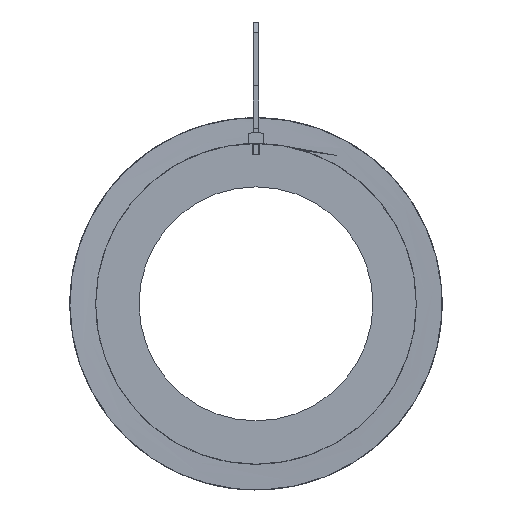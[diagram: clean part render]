
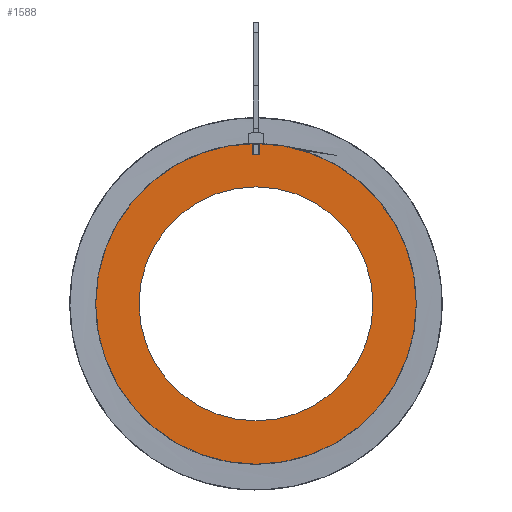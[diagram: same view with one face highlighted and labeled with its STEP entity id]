
A CAD part, front view. The second image highlights one B-rep face of the part: STEP entity #1588.
In plain terms, the highlighted planar face has unit normal (0, -1, 0).
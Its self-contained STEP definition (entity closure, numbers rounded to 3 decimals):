
#31=FACE_BOUND($,#307,.T.);
#32=FACE_BOUND($,#308,.T.);
#44=CIRCLE($,#1606,30.);
#49=CIRCLE($,#1613,30.15);
#70=CIRCLE($,#1700,22.);
#144=PLANE($,#1699);
#215=FACE_OUTER_BOUND($,#306,.T.);
#306=EDGE_LOOP($,(#1422));
#307=EDGE_LOOP($,(#1423,#1424,#1425,#1426));
#308=EDGE_LOOP($,(#1427));
#477=LINE($,#8890,#648);
#480=LINE($,#8896,#651);
#484=LINE($,#8902,#655);
#648=VECTOR($,#2075,1.991);
#651=VECTOR($,#2080,1.5);
#655=VECTOR($,#2086,1.991);
#686=VERTEX_POINT($,#8543);
#687=VERTEX_POINT($,#8545);
#692=VERTEX_POINT($,#8559);
#795=VERTEX_POINT($,#8889);
#797=VERTEX_POINT($,#8895);
#799=VERTEX_POINT($,#8904);
#831=EDGE_CURVE($,#687,#686,#44,.T.);
#838=EDGE_CURVE($,#692,#692,#49,.T.);
#1002=EDGE_CURVE($,#795,#687,#477,.T.);
#1005=EDGE_CURVE($,#797,#795,#480,.T.);
#1009=EDGE_CURVE($,#686,#797,#484,.T.);
#1010=EDGE_CURVE($,#799,#799,#70,.T.);
#1422=ORIENTED_EDGE($,*,*,#838,.T.);
#1423=ORIENTED_EDGE($,*,*,#1009,.T.);
#1424=ORIENTED_EDGE($,*,*,#1005,.T.);
#1425=ORIENTED_EDGE($,*,*,#1002,.T.);
#1426=ORIENTED_EDGE($,*,*,#831,.T.);
#1427=ORIENTED_EDGE($,*,*,#1010,.T.);
#1588=ADVANCED_FACE($,(#215,#31,#32),#144,.F.);
#1606=AXIS2_PLACEMENT_3D($,#8546,#1748,#1749);
#1613=AXIS2_PLACEMENT_3D($,#8560,#1764,#1765);
#1699=AXIS2_PLACEMENT_3D($,#8903,#2087,#2088);
#1700=AXIS2_PLACEMENT_3D($,#8905,#2089,#2090);
#1748=DIRECTION('center_axis',(0.,1.,0.));
#1749=DIRECTION('ref_axis',(1.,0.,0.));
#1764=DIRECTION('center_axis',(0.,-1.,0.));
#1765=DIRECTION('ref_axis',(1.,0.,0.));
#2075=DIRECTION($,(0.,0.,1.));
#2080=DIRECTION($,(-1.,0.,0.));
#2086=DIRECTION($,(0.,0.,-1.));
#2087=DIRECTION('center_axis',(0.,1.,0.));
#2088=DIRECTION('ref_axis',(0.,0.,1.));
#2089=DIRECTION('center_axis',(0.,1.,0.));
#2090=DIRECTION('ref_axis',(1.,0.,0.));
#8543=CARTESIAN_POINT('',(0.75,-150.,29.991));
#8545=CARTESIAN_POINT('',(-0.75,-150.,29.991));
#8546=CARTESIAN_POINT('Origin',(0.,-150.,0.));
#8559=CARTESIAN_POINT('',(-30.15,-150.,0.));
#8560=CARTESIAN_POINT('Origin',(0.,-150.,0.));
#8889=CARTESIAN_POINT('',(-0.75,-150.,28.));
#8890=CARTESIAN_POINT($,(-0.75,-150.,15.35));
#8895=CARTESIAN_POINT('',(0.75,-150.,28.));
#8896=CARTESIAN_POINT($,(-0.375,-150.,28.));
#8902=CARTESIAN_POINT($,(0.75,-150.,14.));
#8903=CARTESIAN_POINT('Origin',(0.,-150.,0.));
#8904=CARTESIAN_POINT('',(-22.,-150.,0.));
#8905=CARTESIAN_POINT('Origin',(0.,-150.,0.));
